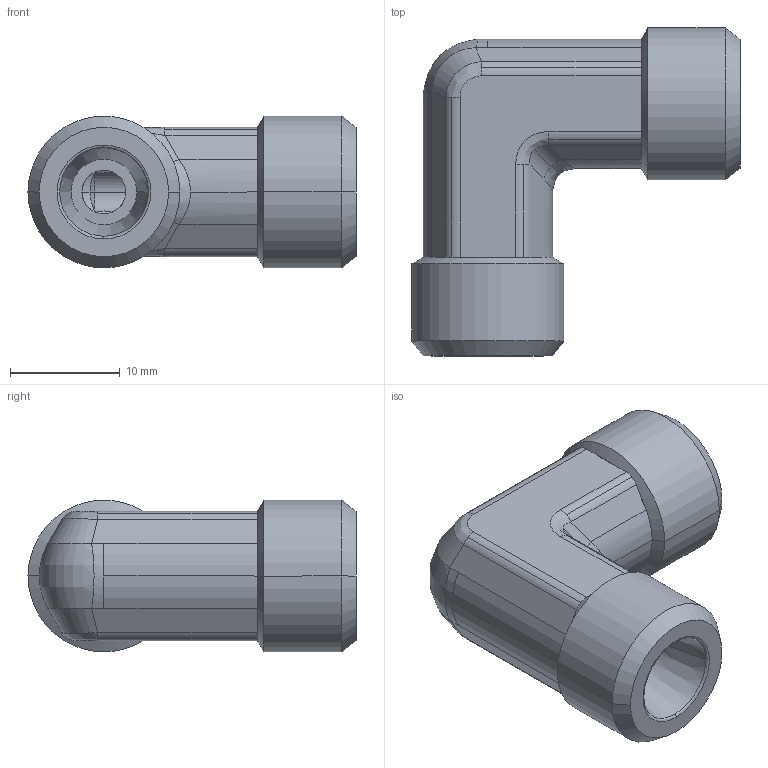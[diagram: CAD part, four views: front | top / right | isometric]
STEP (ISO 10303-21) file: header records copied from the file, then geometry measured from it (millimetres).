
FILE_DESCRIPTION((''),'2;1');
FILE_NAME('103814.stp','2007-10-31T11:52:45',(''),(''),'AutoCAD STEP 2000i','AutoCAD 2000i',', , ');
FILE_SCHEMA(('CONFIG_CONTROL_DESIGN'));
Length unit declared in the file: millimetre
Products named in the file (2): 103814.0; 3090#0
Assembly tree (1 placements, depth 2):
  103814.0
    3090#0
Bounding box: 29.93 x 29.93 x 13.85 mm (x, y, z)
Volume: 4936 mm3; surface area: 2767.7 mm2
Topology: 1 solids, 1 shells, 104 faces, 234 edges, 134 vertices
Faces by surface type: cylinder 44, plane 26, cone 20, bspline 14
Entity records: 3735 total; most frequent: CARTESIAN_POINT 1302, DIRECTION 526, ORIENTED_EDGE 468, EDGE_CURVE 234, AXIS2_PLACEMENT_3D 218, VERTEX_POINT 134, CIRCLE 108, EDGE_LOOP 108
